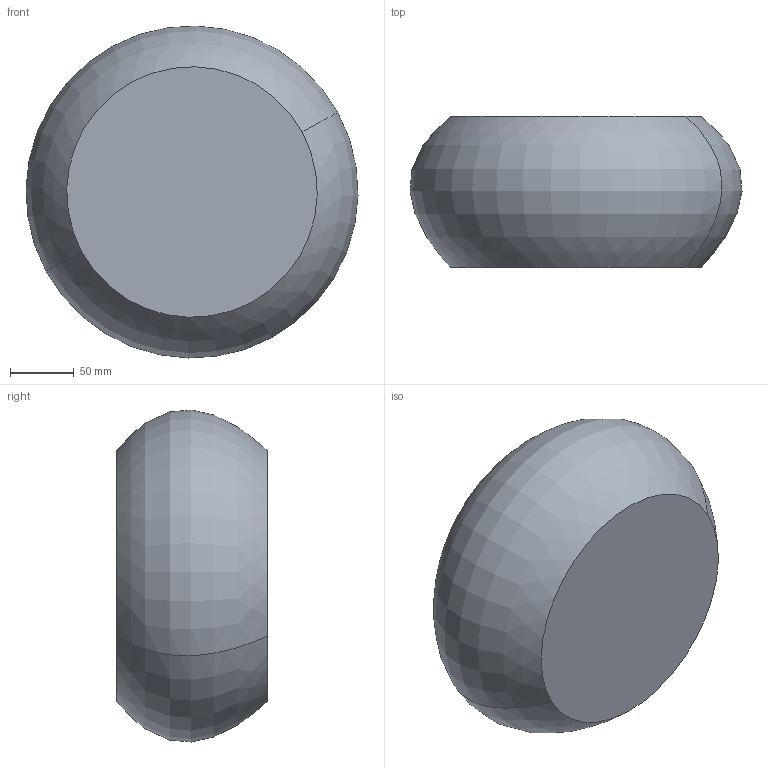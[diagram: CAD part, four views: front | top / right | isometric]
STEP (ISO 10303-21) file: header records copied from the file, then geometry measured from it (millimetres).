
FILE_DESCRIPTION(('CATIA V5 STEP Exchange'),'2;1');
FILE_NAME('C:\_Andres\UNIVERSIDAD\IQS\ASIGNATURAS\DAO\EXF\EXF-15161c\1original\Forés_Garriga_Ej10-decora_v8.stp','2016-03-04T22:24:12+00:00',('none'),('none'),'CATIA Version 5 Release 20 SP 1 (IN-10)','CATIA V5 STEP AP203','none');
FILE_SCHEMA(('CONFIG_CONTROL_DESIGN'));
Length unit declared in the file: millimetre
Products named in the file (1): Forés_Garriga_Ej10-decora_v8
Bounding box: 259.71 x 118 x 259.71 mm (x, y, z)
Volume: 5314180.7 mm3; surface area: 163043.5 mm2
Topology: 1 solids, 1 shells, 4 faces, 6 edges, 4 vertices
Faces by surface type: revolution 2, plane 2
Entity records: 166 total; most frequent: CARTESIAN_POINT 50, DIRECTION 12, ORIENTED_EDGE 12, AXIS2_PLACEMENT_3D 8, EDGE_CURVE 6, ADVANCED_FACE 4, B_SPLINE_CURVE_WITH_KNOTS 4, CC_DESIGN_PERSON_AND_ORGANIZATION_ASSIGNMENT 4
